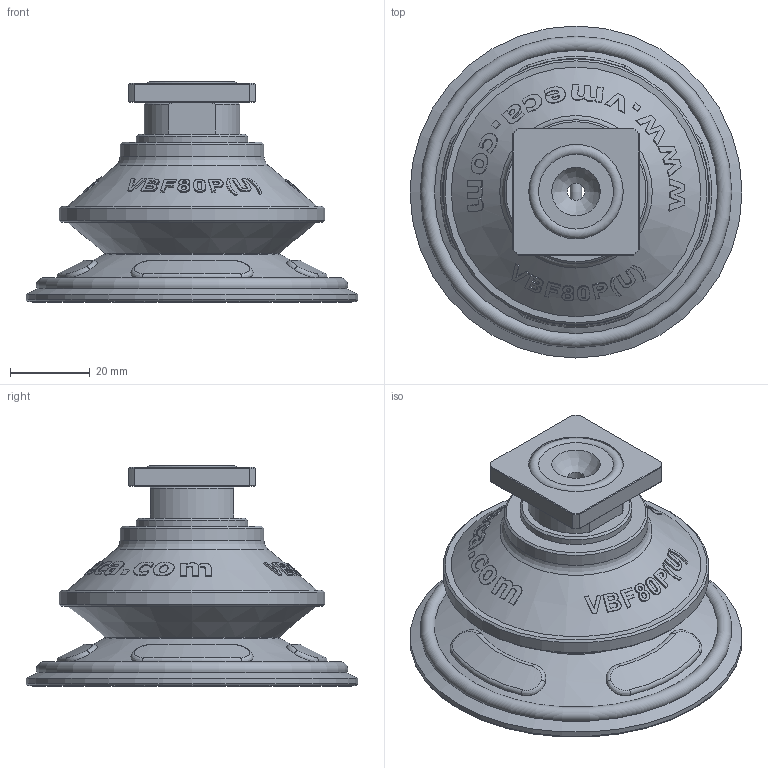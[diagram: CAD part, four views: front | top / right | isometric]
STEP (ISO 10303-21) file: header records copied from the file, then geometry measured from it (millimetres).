
FILE_DESCRIPTION( ( 'Unknown' ), '1' );
FILE_NAME( 'C:/Documents and Settings/owner/官帕 拳搁/啊付快瘤/VBF80-38F-QA.stp', 'Unknown', ( 'Unknown' ), ( 'Unknown' ), 'XStep 1.0', 'Unknown', ' ' );
FILE_SCHEMA( ( 'automotive_design' ) );
Length unit declared in the file: millimetre
Products named in the file (6): Assem1; 1; Quick mount adaptor; G18 (3x18)
Bounding box: 83 x 83 x 55.06 mm (x, y, z)
Volume: 12709 mm3; surface area: 61234.9 mm2
Topology: 4 solids, 528 shells, 606 faces, 2680 edges, 2532 vertices
Faces by surface type: bspline 350, cone 128, plane 56, cylinder 40, torus 32
Full cylindrical faces by diameter (mm): 4.3 x2, 8.6 x2, 11.2 x2, 14.95 x2, 15 x2, 16.6 x2, 18.152 x2, 18.7 x2, 23.6 x2, 28 x2, 33 x2, 36 x2, 66.5 x2, 83 x2
Entity records: 35576 total; most frequent: CARTESIAN_POINT 27430, ORIENTED_EDGE 1336, EDGE_CURVE 1264, VERTEX_POINT 1240, DIRECTION 934, B_SPLINE_CURVE_WITH_KNOTS 798, EDGE_LOOP 400, FACE_BOUND 351
